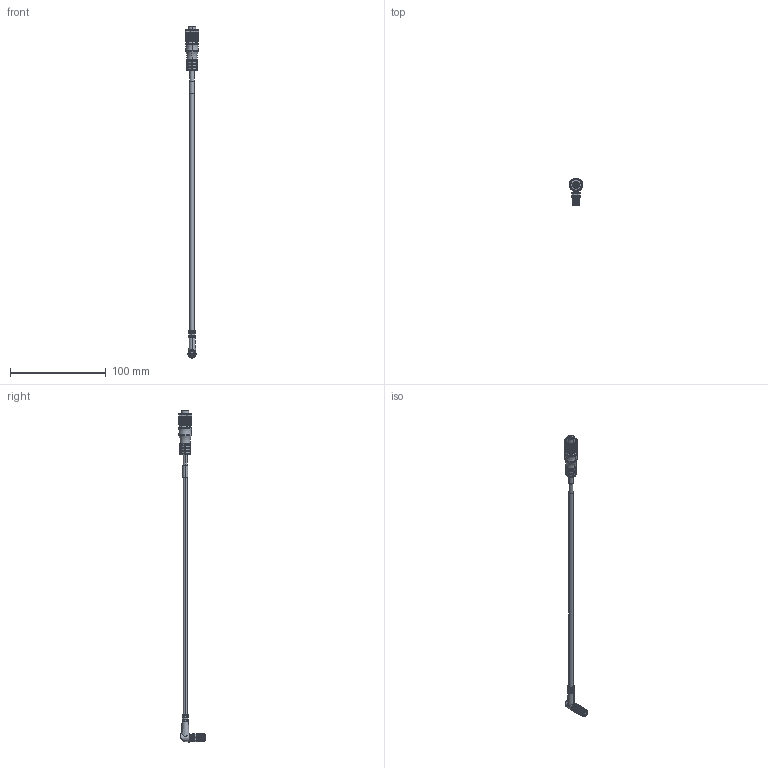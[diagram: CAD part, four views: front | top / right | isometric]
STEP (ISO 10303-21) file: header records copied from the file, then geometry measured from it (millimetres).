
FILE_DESCRIPTION((''),'2;1');
FILE_NAME('889D-F4UBP3E-2_ASM','2015-05-22T',('20066374'),('Rockwell Automation'),'PRO/ENGINEER BY PARAMETRIC TECHNOLOGY CORPORATION, 2009140','PRO/ENGINEER BY PARAMETRIC TECHNOLOGY CORPORATION, 2009140','');
FILE_SCHEMA(('CONFIG_CONTROL_DESIGN'));
Length unit declared in the file: inch
Products named in the file (3): 889D-F4-STRAIGHT-FEMALE; 889P-E3AB-2; 889D-F4UBP3E-2_ASM
Assembly tree (2 placements, depth 2):
  889D-F4UBP3E-2_ASM
    889D-F4-STRAIGHT-FEMALE
    889P-E3AB-2
Bounding box: 14 x 28.68 x 346.8 mm (x, y, z)
Volume: 10489.5 mm3; surface area: 8844.1 mm2
Topology: 3 solids, 3 shells, 945 faces, 2278 edges, 1365 vertices
Faces by surface type: plane 440, cylinder 354, cone 102, torus 45, bspline 2, sphere 2
Entity records: 28548 total; most frequent: CARTESIAN_POINT 6387, DIRECTION 4807, ORIENTED_EDGE 4556, EDGE_CURVE 2278, AXIS2_PLACEMENT_3D 1846, VERTEX_POINT 1365, VECTOR 1115, LINE 1115
